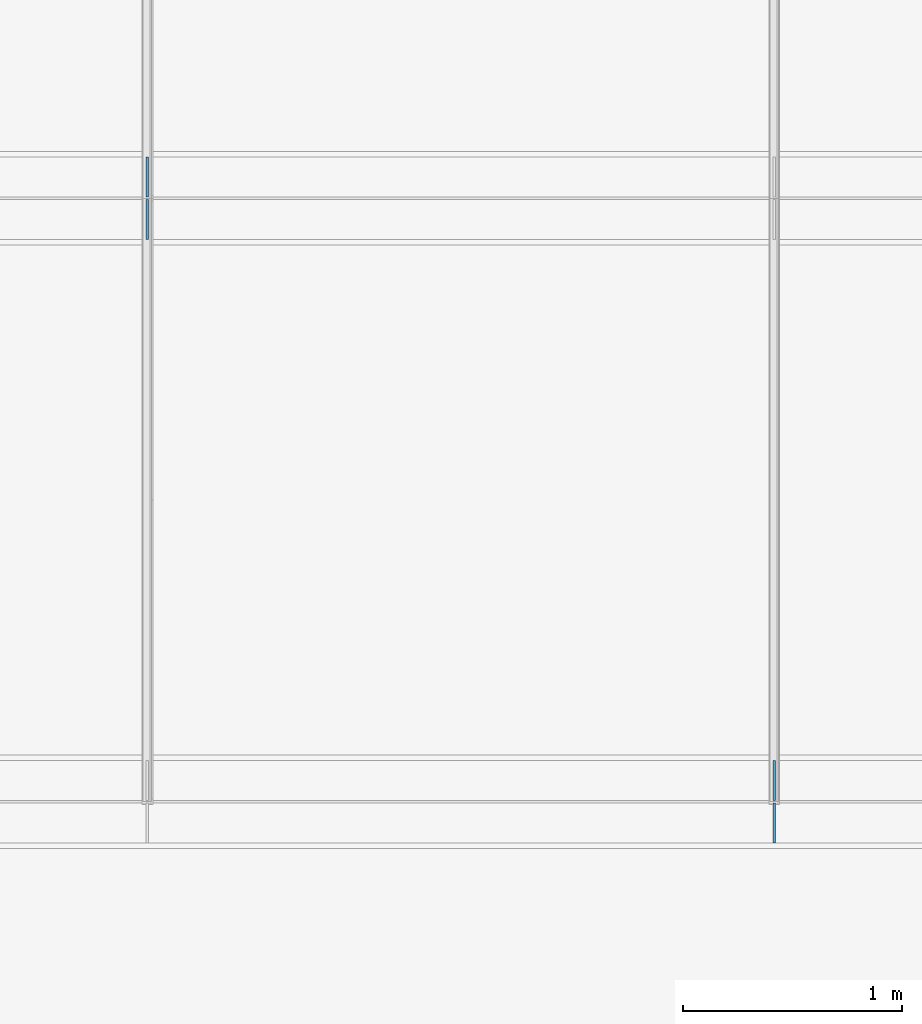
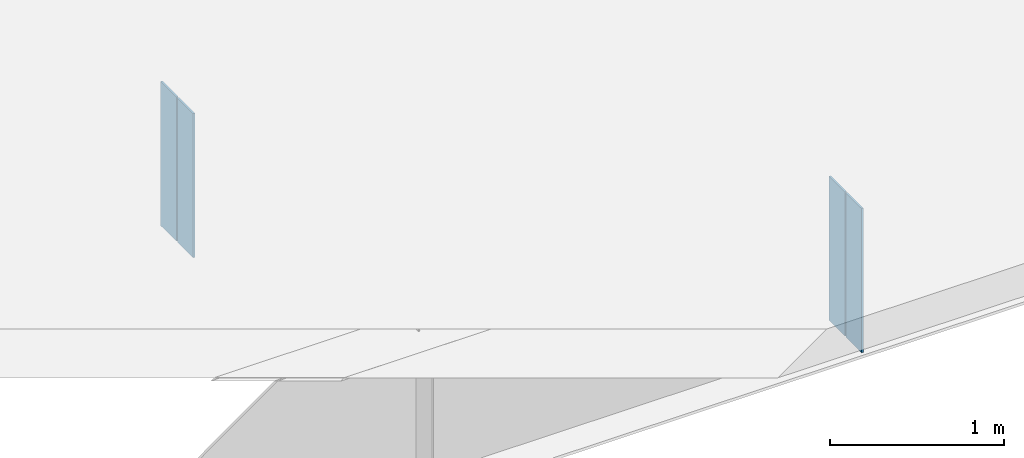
# One storey, part 4 of 12: 4 plates.
"""IFC4 building model written with IfcOpenShell, lengths in metres."""

from ifc_helpers import new_model, si_unit, frame, origin, origin_with_axes, origin_2d_with_axis, place, context, subcontext, project, spatial, rectangle, extrude, element, save


model = new_model("IFC4")

# Units and contexts
model_context = context("Model", 3, precision=1e-05, world=origin())
body_context = subcontext(model_context, "Body", "Model", "MODEL_VIEW")
ifc_project = project(units=[si_unit("LENGTHUNIT", "METRE"), si_unit("AREAUNIT", "SQUARE_METRE"), si_unit("VOLUMEUNIT", "CUBIC_METRE"), si_unit("PLANEANGLEUNIT", "RADIAN")], contexts=[model_context])

# Site, building, storey
site_placement = place(None, origin_with_axes())
site = spatial("IfcSite", under=ifc_project, at=site_placement, Name="Default Site")
building_placement = place(site_placement, origin_with_axes())
building = spatial("IfcBuilding", under=site, at=building_placement, Name="Bridge Structure")
storey_placement = place(building_placement, origin_with_axes())
storey = spatial("IfcBuildingStorey", under=building, at=storey_placement, Name="Superstructure")

# Plates
for number, where, z_axis, x_axis, name in (
    (1, (11.428, -5.4037500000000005, -0.507), (0.0, 0.0, 1.0), (1.0, 0.0, 0.0), "Intermediate Stiffener 1"),
    (2, (11.428, -5.59625, -0.507), (0.0, 0.0, 1.0), (1.0, 0.0, 0.0), "Intermediate Stiffener 1"),
    (3, (8.571, -2.65375, -0.507), (0.0, 0.0, 1.0), (1.0, 0.0, 0.0), "Intermediate Stiffener 2"),
    (4, (8.571, -2.84625, -0.507), (0.0, 0.0, 1.0), (1.0, 0.0, 0.0), "Intermediate Stiffener 2"),
):
    element("IfcPlate", number, at=place(storey_placement, frame(where, z_axis=z_axis, x_axis=x_axis)), inside=storey, Name=name, context=body_context, shape_type="SweptSolid", body=[
        extrude(rectangle(XDim=0.012, YDim=0.1825, at=origin_2d_with_axis()), origin_with_axes(), (0.0, 0.0, 1.0), 1.014),
    ])

save(model, "model.ifc")
